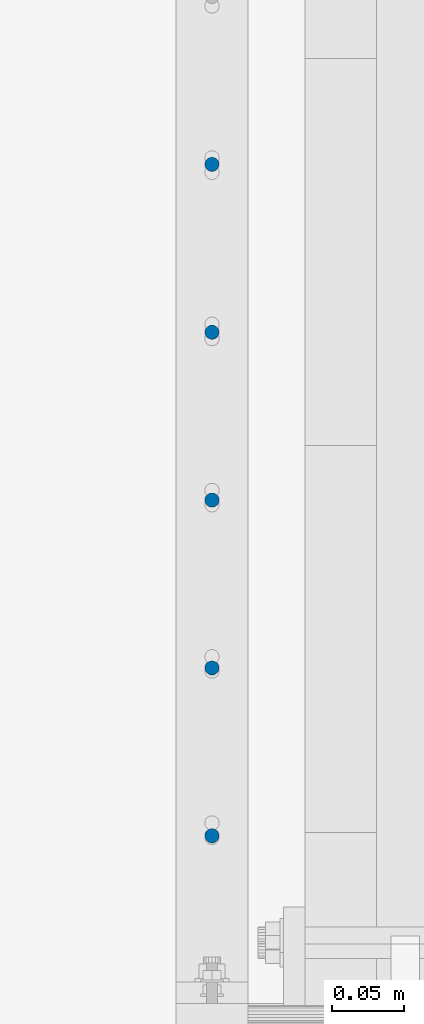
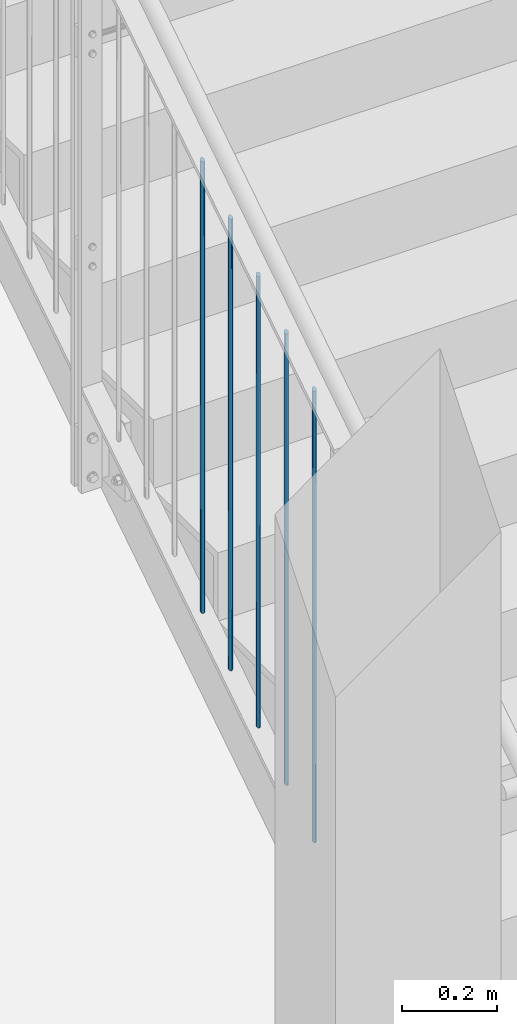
# One storey, part 2 of 296: 5 columns.
"""IFC2X3 building model written with IfcOpenShell, lengths in millimetres."""

from ifc_helpers import new_model, entity, si_unit, converted_unit, frame, origin, origin_with_axes, origin_2d, place, context, project, spatial, circle, extrude, clip, halfspace, material, element, save


model = new_model("IFC2X3")

# Units and contexts
model_context = context("Model", 3, precision=1e-09, world=origin_with_axes())
ifc_project = project(units=[si_unit("LENGTHUNIT", "METRE", prefix="MILLI"), si_unit("AREAUNIT", "SQUARE_METRE"), si_unit("VOLUMEUNIT", "CUBIC_METRE"), converted_unit("PLANEANGLEUNIT", "DEGREE", entity("IfcPlaneAngleMeasure", 0.01745329), si_unit("PLANEANGLEUNIT", "RADIAN"), dimensions=[0, 0, 0, 0, 0, 0, 0])], contexts=[model_context])

# Site, building, storey
site_placement = place(None, origin_with_axes())
site = spatial("IfcSite", under=ifc_project, at=site_placement, Name="TZD-S?d | Treppenhausgel?nder", CompositionType="ELEMENT")
building_placement = place(site_placement, origin_with_axes())
building = spatial("IfcBuilding", under=site, at=building_placement, Name="Struktur 1", CompositionType="ELEMENT")
storey_placement = place(building_placement, origin_with_axes())
storey = spatial("IfcBuildingStorey", under=building, at=storey_placement, Name="Default Storey", CompositionType="ELEMENT", Elevation=0.0)

# Columns
ifc_material = material(Name="S235JR")
column_1_placement = place(None, frame((-45.0, -2856.388888, 5837.395442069), z_axis=(0.0, 0.0, 1.0), x_axis=(0.0, 1.0, 0.0)))
element("IfcColumn", 1, at=column_1_placement, inside=storey, material=ifc_material, Name="-", ObjectType="-", context=model_context, shape_type="Clipping", body=[
    clip(clip(extrude(circle(Radius=5.0, at=origin_2d()), origin(), (0.0, 0.0, 1.0), 1184.929585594), halfspace(frame((-1175.932173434, -45.0, 411.785297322), z_axis=(0.542183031, 0.0, -0.840260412), x_axis=(0.0, 1.0, 0.0)), True)), halfspace(frame((-649.198492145, -45.0, -404.532135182), z_axis=(-0.542183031, 0.0, 0.840260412), x_axis=(0.0, -1.0, 0.0)), True)),
])
column_2_placement = place(None, frame((-45.0, -2973.61111, 5761.757105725), z_axis=(0.0, 0.0, 1.0), x_axis=(0.0, 1.0, 0.0)))
element("IfcColumn", 2, at=column_2_placement, inside=storey, material=ifc_material, Name="-", ObjectType="-", context=model_context, shape_type="Clipping", body=[
    clip(clip(extrude(circle(Radius=5.0, at=origin_2d()), origin(), (0.0, 0.0, 1.0), 1184.929585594), halfspace(frame((-531.976270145, -45.0, -328.893798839), z_axis=(-0.542183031, 0.0, 0.840260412), x_axis=(0.0, -1.0, 0.0)), True)), halfspace(frame((-1058.709951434, -45.0, 487.423633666), z_axis=(0.542183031, 0.0, -0.840260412), x_axis=(0.0, 1.0, 0.0)), True)),
])
column_3_placement = place(None, frame((-45.0, -3090.833332, 5686.118769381), z_axis=(0.0, 0.0, 1.0), x_axis=(0.0, 1.0, 0.0)))
element("IfcColumn", 3, at=column_3_placement, inside=storey, material=ifc_material, Name="-", ObjectType="-", context=model_context, shape_type="Clipping", body=[
    clip(clip(extrude(circle(Radius=5.0, at=origin_2d()), origin(), (0.0, 0.0, 1.0), 1184.929585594), halfspace(frame((-941.487729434, -45.0, 563.06197001), z_axis=(0.542183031, 0.0, -0.840260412), x_axis=(0.0, 1.0, 0.0)), True)), halfspace(frame((-414.754048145, -45.0, -253.255462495), z_axis=(-0.542183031, 0.0, 0.840260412), x_axis=(0.0, -1.0, 0.0)), True)),
])
column_4_placement = place(None, frame((-45.0, -3208.055554, 5610.480433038), z_axis=(0.0, 0.0, 1.0), x_axis=(0.0, 1.0, 0.0)))
element("IfcColumn", 4, at=column_4_placement, inside=storey, material=ifc_material, Name="-", ObjectType="-", context=model_context, shape_type="Clipping", body=[
    clip(clip(extrude(circle(Radius=5.0, at=origin_2d()), origin(), (0.0, 0.0, 1.0), 1184.929585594), halfspace(frame((-824.265507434, -45.0, 638.700306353), z_axis=(0.542183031, 0.0, -0.840260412), x_axis=(0.0, 1.0, 0.0)), True)), halfspace(frame((-297.531826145, -45.0, -177.617126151), z_axis=(-0.542183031, 0.0, 0.840260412), x_axis=(0.0, -1.0, 0.0)), True)),
])
column_5_placement = place(None, frame((-45.0, -3325.277776, 5534.842096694), z_axis=(0.0, 0.0, 1.0), x_axis=(0.0, 1.0, 0.0)))
element("IfcColumn", 5, at=column_5_placement, inside=storey, material=ifc_material, Name="-", ObjectType="-", context=model_context, shape_type="Clipping", body=[
    clip(clip(extrude(circle(Radius=5.0, at=origin_2d()), origin(), (0.0, 0.0, 1.0), 1184.929585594), halfspace(frame((-707.043285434, -45.0, 714.338642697), z_axis=(0.542183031, 0.0, -0.840260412), x_axis=(0.0, 1.0, 0.0)), True)), halfspace(frame((-180.309604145, -45.0, -101.978789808), z_axis=(-0.542183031, 0.0, 0.840260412), x_axis=(0.0, -1.0, 0.0)), True)),
])

save(model, "model.ifc")
